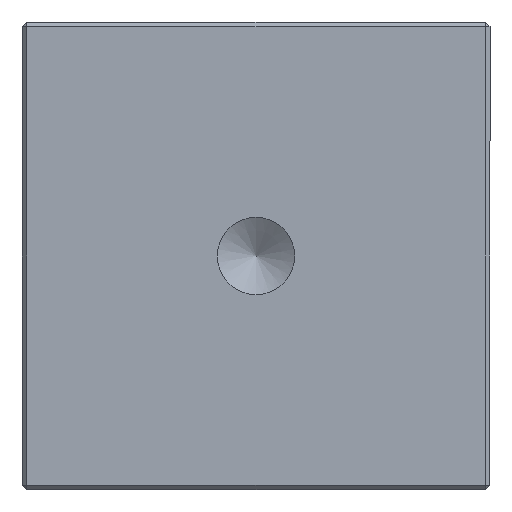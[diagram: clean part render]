
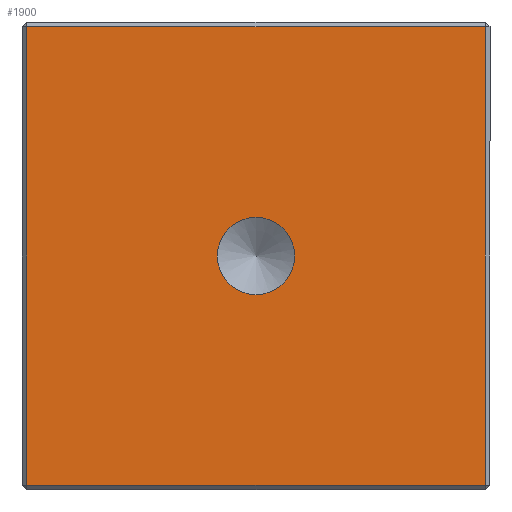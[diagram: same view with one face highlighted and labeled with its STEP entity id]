
A CAD part, front view. The second image highlights one B-rep face of the part: STEP entity #1900.
In plain terms, the highlighted planar face has unit normal (0, -1, 0).
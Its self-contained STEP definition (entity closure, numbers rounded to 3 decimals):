
#30 = CARTESIAN_POINT ( 'NONE',  ( 9.8, 0., -9.8 ) ) ;
#93 = DIRECTION ( 'NONE',  ( 0., 0., -1. ) ) ;
#105 = EDGE_LOOP ( 'NONE', ( #1783, #625, #2326, #2489 ) ) ;
#107 = CARTESIAN_POINT ( 'NONE',  ( 0., 0., 0. ) ) ;
#114 = EDGE_CURVE ( 'NONE', #1159, #1159, #2071, .T. ) ;
#250 = CARTESIAN_POINT ( 'NONE',  ( 0., 0., -1.65 ) ) ;
#254 = VERTEX_POINT ( 'NONE', #1792 ) ;
#261 = DIRECTION ( 'NONE',  ( 0., 0., 1. ) ) ;
#264 = VECTOR ( 'NONE', #2384, 1000. ) ;
#309 = DIRECTION ( 'NONE',  ( 0., 1., 0. ) ) ;
#335 = LINE ( 'NONE', #1330, #1532 ) ;
#416 = ORIENTED_EDGE ( 'NONE', *, *, #114, .F. ) ;
#484 = PLANE ( 'NONE',  #579 ) ;
#505 = CARTESIAN_POINT ( 'NONE',  ( 0., 0., 0. ) ) ;
#579 = AXIS2_PLACEMENT_3D ( 'NONE', #505, #309, #261 ) ;
#618 = CARTESIAN_POINT ( 'NONE',  ( 9.8, 0., 0. ) ) ;
#625 = ORIENTED_EDGE ( 'NONE', *, *, #933, .T. ) ;
#641 = EDGE_CURVE ( 'NONE', #1063, #740, #876, .T. ) ;
#692 = FACE_OUTER_BOUND ( 'NONE', #105, .T. ) ;
#715 = VERTEX_POINT ( 'NONE', #2058 ) ;
#724 = DIRECTION ( 'NONE',  ( -1., 0., 0. ) ) ;
#740 = VERTEX_POINT ( 'NONE', #1674 ) ;
#874 = VECTOR ( 'NONE', #1911, 1000. ) ;
#876 = LINE ( 'NONE', #618, #2410 ) ;
#921 = LINE ( 'NONE', #1705, #874 ) ;
#930 = AXIS2_PLACEMENT_3D ( 'NONE', #107, #1896, #93 ) ;
#933 = EDGE_CURVE ( 'NONE', #715, #1063, #2579, .T. ) ;
#1063 = VERTEX_POINT ( 'NONE', #30 ) ;
#1159 = VERTEX_POINT ( 'NONE', #250 ) ;
#1187 = EDGE_LOOP ( 'NONE', ( #416 ) ) ;
#1220 = CARTESIAN_POINT ( 'NONE',  ( 0., 0., -9.8 ) ) ;
#1330 = CARTESIAN_POINT ( 'NONE',  ( 0., 0., 9.8 ) ) ;
#1408 = EDGE_CURVE ( 'NONE', #740, #254, #335, .T. ) ;
#1532 = VECTOR ( 'NONE', #724, 1000. ) ;
#1674 = CARTESIAN_POINT ( 'NONE',  ( 9.8, 0., 9.8 ) ) ;
#1705 = CARTESIAN_POINT ( 'NONE',  ( -9.8, 0., 0. ) ) ;
#1783 = ORIENTED_EDGE ( 'NONE', *, *, #2427, .T. ) ;
#1792 = CARTESIAN_POINT ( 'NONE',  ( -9.8, 0., 9.8 ) ) ;
#1896 = DIRECTION ( 'NONE',  ( 0., -1., 0. ) ) ;
#1900 = ADVANCED_FACE ( 'NONE', ( #692, #2310 ), #484, .F. ) ;
#1911 = DIRECTION ( 'NONE',  ( 0., 0., -1. ) ) ;
#2058 = CARTESIAN_POINT ( 'NONE',  ( -9.8, 0., -9.8 ) ) ;
#2071 = CIRCLE ( 'NONE', #930, 1.65 ) ;
#2219 = DIRECTION ( 'NONE',  ( 0., 0., 1. ) ) ;
#2310 = FACE_BOUND ( 'NONE', #1187, .T. ) ;
#2326 = ORIENTED_EDGE ( 'NONE', *, *, #641, .T. ) ;
#2384 = DIRECTION ( 'NONE',  ( 1., 0., 0. ) ) ;
#2410 = VECTOR ( 'NONE', #2219, 1000. ) ;
#2427 = EDGE_CURVE ( 'NONE', #254, #715, #921, .T. ) ;
#2489 = ORIENTED_EDGE ( 'NONE', *, *, #1408, .T. ) ;
#2579 = LINE ( 'NONE', #1220, #264 ) ;
